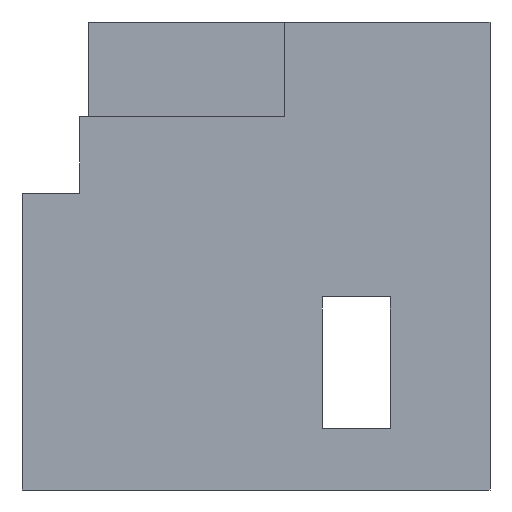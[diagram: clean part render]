
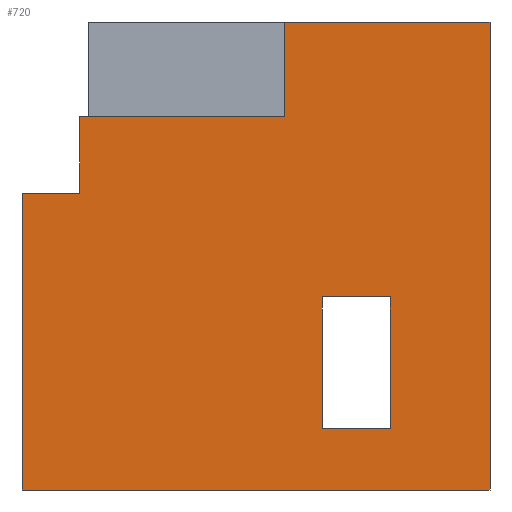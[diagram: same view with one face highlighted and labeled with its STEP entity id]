
A CAD part, left-side view. The second image highlights one B-rep face of the part: STEP entity #720.
In plain terms, the highlighted planar face has unit normal (-1, 0, 0).
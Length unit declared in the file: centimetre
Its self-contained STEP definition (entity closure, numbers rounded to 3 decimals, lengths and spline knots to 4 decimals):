
#4 = VECTOR ( 'NONE', #656, 100. ) ;
#14 = EDGE_CURVE ( 'NONE', #458, #357, #146, .T. ) ;
#17 = DIRECTION ( 'NONE',  ( 0., 0., -1. ) ) ;
#40 = EDGE_LOOP ( 'NONE', ( #658, #269, #412, #216 ) ) ;
#56 = CARTESIAN_POINT ( 'NONE',  ( 0., 876.6099, 797.9724 ) ) ;
#71 = VECTOR ( 'NONE', #270, 100. ) ;
#72 = EDGE_CURVE ( 'NONE', #358, #453, #336, .T. ) ;
#75 = CARTESIAN_POINT ( 'NONE',  ( 0., 1000., 0. ) ) ;
#77 = EDGE_CURVE ( 'NONE', #800, #684, #158, .T. ) ;
#81 = CARTESIAN_POINT ( 'NONE',  ( 0., 439.2504, 797.9724 ) ) ;
#88 = LINE ( 'NONE', #419, #4 ) ;
#90 = CARTESIAN_POINT ( 'NONE',  ( 0., 358.4937, 131.1369 ) ) ;
#146 = LINE ( 'NONE', #75, #546 ) ;
#149 = EDGE_CURVE ( 'NONE', #164, #358, #778, .T. ) ;
#156 = ORIENTED_EDGE ( 'NONE', *, *, #14, .T. ) ;
#158 = LINE ( 'NONE', #409, #500 ) ;
#162 = VERTEX_POINT ( 'NONE', #411 ) ;
#164 = VERTEX_POINT ( 'NONE', #590 ) ;
#167 = EDGE_CURVE ( 'NONE', #545, #458, #476, .T. ) ;
#172 = ORIENTED_EDGE ( 'NONE', *, *, #562, .F. ) ;
#181 = FACE_BOUND ( 'NONE', #40, .T. ) ;
#187 = EDGE_CURVE ( 'NONE', #666, #691, #593, .T. ) ;
#195 = DIRECTION ( 'NONE',  ( 1., 0., 0. ) ) ;
#210 = VECTOR ( 'NONE', #279, 100. ) ;
#216 = ORIENTED_EDGE ( 'NONE', *, *, #240, .F. ) ;
#223 = ORIENTED_EDGE ( 'NONE', *, *, #187, .F. ) ;
#240 = EDGE_CURVE ( 'NONE', #162, #164, #438, .T. ) ;
#242 = FACE_OUTER_BOUND ( 'NONE', #614, .T. ) ;
#257 = CARTESIAN_POINT ( 'NONE',  ( 0., 439.2504, 797.9724 ) ) ;
#266 = DIRECTION ( 'NONE',  ( 0., 0., 1. ) ) ;
#269 = ORIENTED_EDGE ( 'NONE', *, *, #72, .F. ) ;
#270 = DIRECTION ( 'NONE',  ( 0., 0., 1. ) ) ;
#279 = DIRECTION ( 'NONE',  ( 0., 0., -1. ) ) ;
#304 = CARTESIAN_POINT ( 'NONE',  ( 0., 876.6099, 633.9547 ) ) ;
#307 = VECTOR ( 'NONE', #662, 100. ) ;
#308 = ORIENTED_EDGE ( 'NONE', *, *, #167, .T. ) ;
#313 = DIRECTION ( 'NONE',  ( 0., 0., -1. ) ) ;
#315 = CARTESIAN_POINT ( 'NONE',  ( 0., 358.4937, 131.1369 ) ) ;
#336 = LINE ( 'NONE', #540, #404 ) ;
#339 = CARTESIAN_POINT ( 'NONE',  ( 0., 1000., 1000. ) ) ;
#357 = VERTEX_POINT ( 'NONE', #767 ) ;
#358 = VERTEX_POINT ( 'NONE', #315 ) ;
#378 = VERTEX_POINT ( 'NONE', #257 ) ;
#393 = EDGE_CURVE ( 'NONE', #453, #162, #642, .T. ) ;
#398 = CARTESIAN_POINT ( 'NONE',  ( 0., 439.2504, 1000. ) ) ;
#404 = VECTOR ( 'NONE', #726, 100. ) ;
#409 = CARTESIAN_POINT ( 'NONE',  ( 0., 1000., 1000. ) ) ;
#411 = CARTESIAN_POINT ( 'NONE',  ( 0., 212.8416, 412.517 ) ) ;
#412 = ORIENTED_EDGE ( 'NONE', *, *, #149, .F. ) ;
#419 = CARTESIAN_POINT ( 'NONE',  ( 0., 0., 1000. ) ) ;
#438 = LINE ( 'NONE', #688, #805 ) ;
#442 = CARTESIAN_POINT ( 'NONE',  ( 0., 1000., 0. ) ) ;
#453 = VERTEX_POINT ( 'NONE', #798 ) ;
#458 = VERTEX_POINT ( 'NONE', #442 ) ;
#470 = VECTOR ( 'NONE', #610, 100. ) ;
#476 = LINE ( 'NONE', #339, #210 ) ;
#481 = ORIENTED_EDGE ( 'NONE', *, *, #657, .F. ) ;
#491 = DIRECTION ( 'NONE',  ( 0., 1., 0. ) ) ;
#500 = VECTOR ( 'NONE', #652, 100. ) ;
#506 = EDGE_CURVE ( 'NONE', #378, #691, #686, .T. ) ;
#507 = PLANE ( 'NONE',  #528 ) ;
#512 = CARTESIAN_POINT ( 'NONE',  ( 0., 212.8416, 131.1369 ) ) ;
#517 = VECTOR ( 'NONE', #266, 100. ) ;
#528 = AXIS2_PLACEMENT_3D ( 'NONE', #821, #195, #313 ) ;
#540 = CARTESIAN_POINT ( 'NONE',  ( 0., 212.8416, 131.1369 ) ) ;
#545 = VERTEX_POINT ( 'NONE', #771 ) ;
#546 = VECTOR ( 'NONE', #587, 100. ) ;
#556 = LINE ( 'NONE', #304, #470 ) ;
#557 = ORIENTED_EDGE ( 'NONE', *, *, #631, .F. ) ;
#562 = EDGE_CURVE ( 'NONE', #378, #800, #580, .T. ) ;
#580 = LINE ( 'NONE', #81, #517 ) ;
#584 = CARTESIAN_POINT ( 'NONE',  ( 0., 876.6099, 633.9547 ) ) ;
#587 = DIRECTION ( 'NONE',  ( 0., -1., 0. ) ) ;
#590 = CARTESIAN_POINT ( 'NONE',  ( 0., 358.4937, 412.517 ) ) ;
#593 = LINE ( 'NONE', #584, #71 ) ;
#610 = DIRECTION ( 'NONE',  ( 0., -1., 0. ) ) ;
#614 = EDGE_LOOP ( 'NONE', ( #172, #755, #223, #481, #308, #156, #557, #749 ) ) ;
#631 = EDGE_CURVE ( 'NONE', #684, #357, #88, .T. ) ;
#642 = LINE ( 'NONE', #512, #730 ) ;
#652 = DIRECTION ( 'NONE',  ( 0., -1., 0. ) ) ;
#656 = DIRECTION ( 'NONE',  ( 0., 0., -1. ) ) ;
#657 = EDGE_CURVE ( 'NONE', #545, #666, #556, .T. ) ;
#658 = ORIENTED_EDGE ( 'NONE', *, *, #393, .F. ) ;
#662 = DIRECTION ( 'NONE',  ( 0., 1., 0. ) ) ;
#666 = VERTEX_POINT ( 'NONE', #683 ) ;
#683 = CARTESIAN_POINT ( 'NONE',  ( 0., 876.6099, 633.9547 ) ) ;
#684 = VERTEX_POINT ( 'NONE', #689 ) ;
#686 = LINE ( 'NONE', #803, #307 ) ;
#688 = CARTESIAN_POINT ( 'NONE',  ( 0., 212.8416, 412.517 ) ) ;
#689 = CARTESIAN_POINT ( 'NONE',  ( 0., 0., 1000. ) ) ;
#691 = VERTEX_POINT ( 'NONE', #56 ) ;
#708 = VECTOR ( 'NONE', #17, 100. ) ;
#720 = ADVANCED_FACE ( 'NONE', ( #181, #242 ), #507, .F. ) ;
#726 = DIRECTION ( 'NONE',  ( 0., -1., 0. ) ) ;
#730 = VECTOR ( 'NONE', #759, 100. ) ;
#749 = ORIENTED_EDGE ( 'NONE', *, *, #77, .F. ) ;
#755 = ORIENTED_EDGE ( 'NONE', *, *, #506, .T. ) ;
#759 = DIRECTION ( 'NONE',  ( 0., 0., 1. ) ) ;
#767 = CARTESIAN_POINT ( 'NONE',  ( 0., 0., 0. ) ) ;
#771 = CARTESIAN_POINT ( 'NONE',  ( 0., 1000., 633.9547 ) ) ;
#778 = LINE ( 'NONE', #90, #708 ) ;
#798 = CARTESIAN_POINT ( 'NONE',  ( 0., 212.8416, 131.1369 ) ) ;
#800 = VERTEX_POINT ( 'NONE', #398 ) ;
#803 = CARTESIAN_POINT ( 'NONE',  ( 0., 439.2504, 797.9724 ) ) ;
#805 = VECTOR ( 'NONE', #491, 100. ) ;
#821 = CARTESIAN_POINT ( 'NONE',  ( 0., 1000., 1000. ) ) ;
